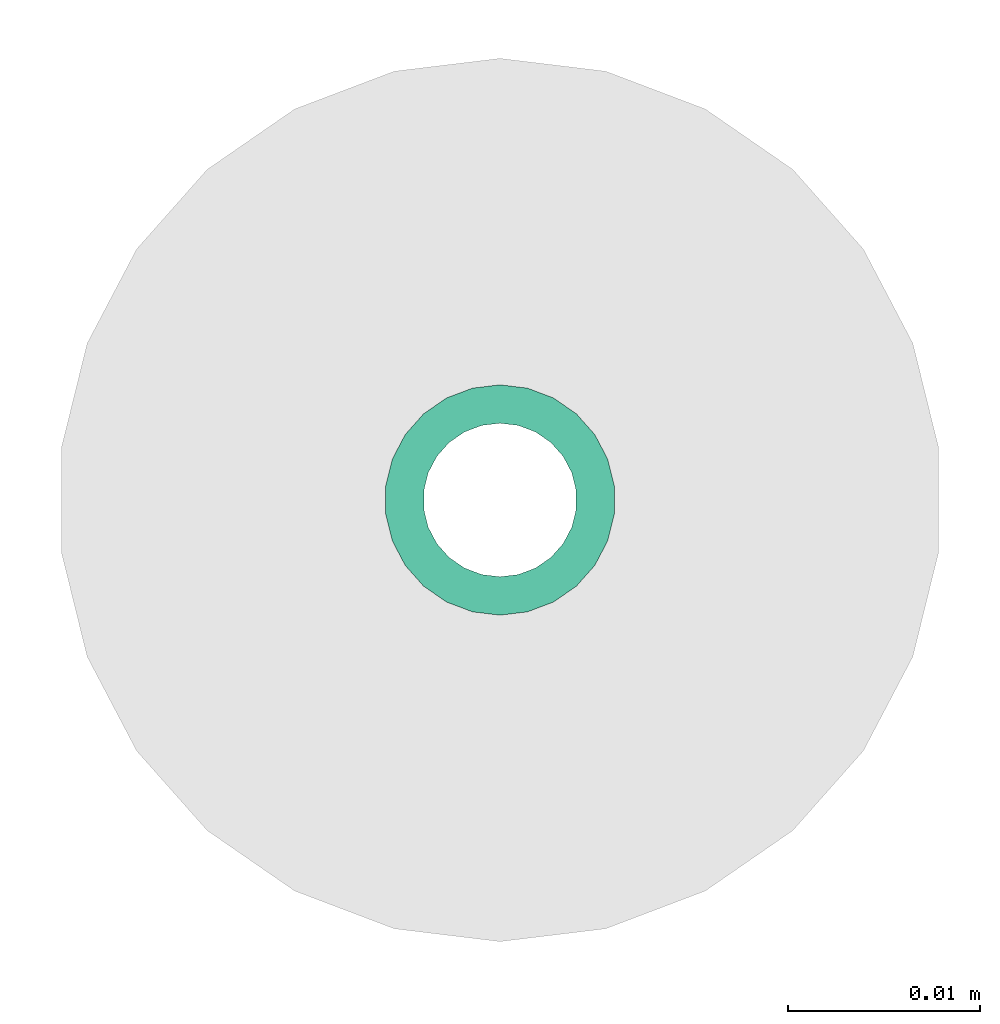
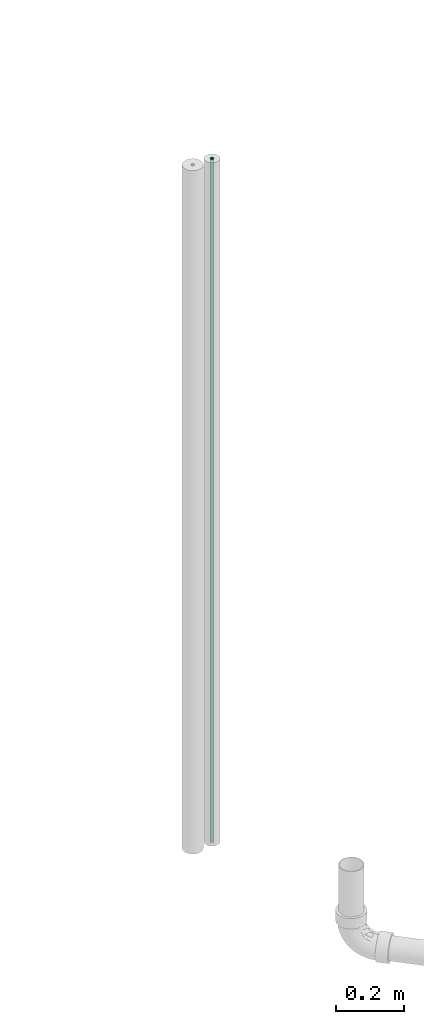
# One storey, part 29 of 108: 1 flow segment.
"""IFC2X3 building model written with IfcOpenShell, lengths in millimetres."""

from ifc_helpers import new_model, entity, si_unit, converted_unit, derived_unit, direction, frame, origin_with_axes, origin_2d_with_axis, place, context, subcontext, project, spatial, hollow_circle, extrude, source, transform, mapped, type_object, element, save


model = new_model("IFC2X3")

# Units and contexts
model_context = context("Model", 3, precision=0.01, world=frame((0.0, 4.29681676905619e-09, 0.0)), true_north=direction((4.01073788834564e-13, 1.0)))
plan_context = context("Plan", 3, precision=0.01, world=frame((0.0, 4.29681676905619e-09, 0.0)), true_north=direction((4.01073788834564e-13, 1.0)))
body_context = subcontext(model_context, "Body", "Model", "MODEL_VIEW")
ifc_project = project(units=[converted_unit("PLANEANGLEUNIT", "DEGREE", entity("IfcPositiveLengthMeasure", 0.0174532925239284), si_unit("PLANEANGLEUNIT", "RADIAN"), dimensions=[0, 0, 0, 0, 0, 0, 0]), si_unit("AREAUNIT", "SQUARE_METRE"), si_unit("LENGTHUNIT", "METRE", prefix="MILLI"), si_unit("MASSUNIT", "GRAM", prefix="KILO"), si_unit("POWERUNIT", "WATT"), si_unit("PRESSUREUNIT", "PASCAL", prefix="KILO"), si_unit("FORCEUNIT", "NEWTON", prefix="KILO"), si_unit("ELECTRICVOLTAGEUNIT", "VOLT"), si_unit("ELECTRICCURRENTUNIT", "AMPERE"), si_unit("THERMODYNAMICTEMPERATUREUNIT", "DEGREE_CELSIUS"), si_unit("TIMEUNIT", "SECOND"), si_unit("VOLUMEUNIT", "CUBIC_METRE"), derived_unit("LINEARVELOCITYUNIT", [(si_unit("LENGTHUNIT", "METRE"), 1), (si_unit("TIMEUNIT", "SECOND"), -1)]), derived_unit("VOLUMETRICFLOWRATEUNIT", [(si_unit("VOLUMEUNIT", "CUBIC_METRE"), 1), (si_unit("TIMEUNIT", "SECOND"), -1)]), derived_unit("THERMALTRANSMITTANCEUNIT", [(si_unit("POWERUNIT", "WATT"), 1), (si_unit("THERMODYNAMICTEMPERATUREUNIT", "KELVIN"), -1), (si_unit("AREAUNIT", "SQUARE_METRE"), -1)]), derived_unit("SOUNDPRESSUREUNIT", [(si_unit("PRESSUREUNIT", "PASCAL"), 1)])], contexts=[model_context, plan_context])

# Site, building, storey
site_placement = place(None, frame((0.0, -4.29681676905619e-09, 0.0), z_axis=(0.0, 0.0, 1.0), x_axis=(1.0, 0.0, 0.0)))
site = spatial("IfcSite", under=ifc_project, at=site_placement, CompositionType="ELEMENT")
building_placement = place(site_placement, frame((0.0, 4.29681676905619e-09, 0.0), z_axis=(0.0, 0.0, 1.0), x_axis=(1.0, 0.0, 0.0)))
building = spatial("IfcBuilding", under=site, at=building_placement, Name="mc-building", CompositionType="ELEMENT")
storey_placement = place(building_placement, frame((0.0, 0.0, 210200.0), z_axis=(0.0, 0.0, 1.0), x_axis=(1.0, 0.0, 0.0)))
storey = spatial("IfcBuildingStorey", under=building, at=storey_placement, Name="Nivå F - 0,7 m", CompositionType="ELEMENT", Elevation=210200.0)

# Flow segment
pipe_segment_type = type_object("IfcPipeSegmentType", Name="Kobberrør", PredefinedType="RIGIDSEGMENT")
shared_shape = source(origin_with_axes(), body_context, "Body", "SweptSolid", [
    extrude(hollow_circle(Radius=6.0, WallThickness=2.0, at=origin_2d_with_axis()), frame((0.0, 0.0, 0.0), z_axis=(1.0, 0.0, 0.0), x_axis=(0.0, 1.0, 0.0)), (0.0, 0.0, 1.0), 2440.0),
])
flow_segment_placement = place(storey_placement, frame((333885.47035, 462052.00941, 550.0), z_axis=(1.0, 0.0, 0.0), x_axis=(0.0, 0.0, 1.0)))
element("IfcFlowSegment", 1, at=flow_segment_placement, inside=storey, type_object=pipe_segment_type, Name="Kobberrør", context=body_context, shape_type="MappedRepresentation", body=[
    mapped(shared_shape, transform((0.0, 0.0, 0.0), scale=1.0)),
])

save(model, "model.ifc")
